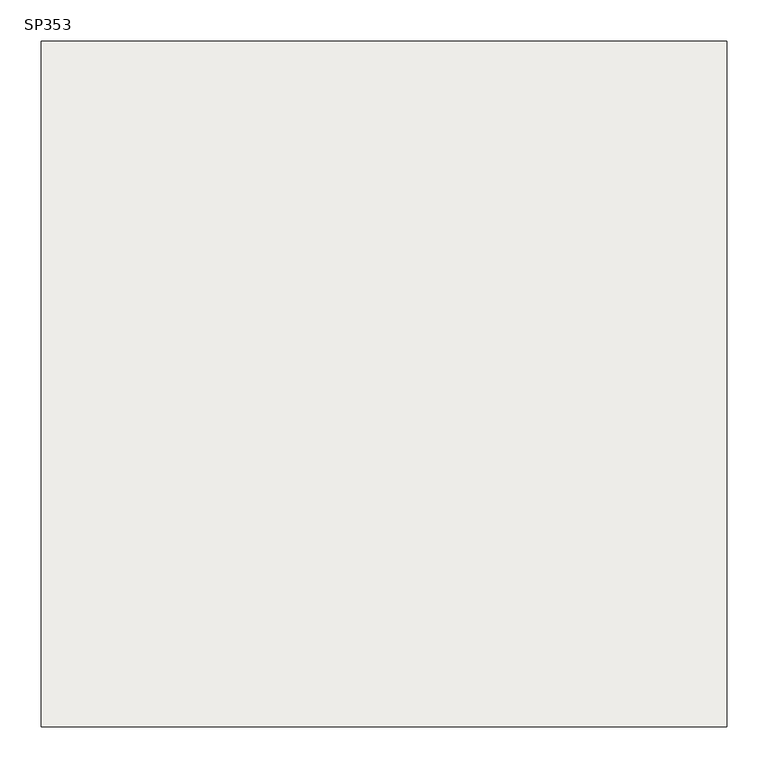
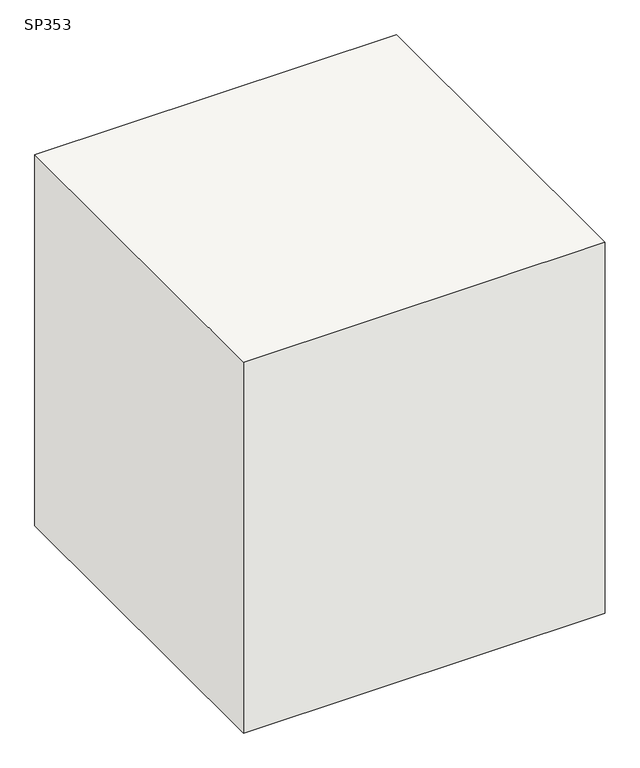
"""IFC4 building model written with IfcOpenShell, lengths in millimetres: slab geometry, 柱形_SP : SP353."""

from ifc_helpers import new_model, si_unit, frame, origin, place, context, project, spatial, polyline, outline, extrude, source, transform, mapped, element, save


def sp353_86609485(model_context):
    return source(origin(), model_context, "Body", "SweptSolid", [
        extrude(outline(polyline([(415.0, 415.0), (415.0, -415.0), (-415.0, -415.0), (-415.0, 415.0), (415.0, 415.0)])), frame((0.0, 0.0, -900.0), z_axis=(0.0, 0.0, 1.0), x_axis=(1.0, 0.0, 0.0)), (0.0, 0.0, 1.0), 900.0),
    ])


if __name__ == "__main__":
    model = new_model("IFC4")
    model_context = context("Model", 3, world=origin())
    ifc_project = project(units=[si_unit("LENGTHUNIT", "METRE", prefix="MILLI")], contexts=[model_context])
    site = spatial("IfcSite", under=ifc_project)
    building = spatial("IfcBuilding", under=site)
    placement = place(None, origin())
    sp353_shape = sp353_86609485(model_context)
    element("IfcSlab", 1, ObjectType="柱形_SP : SP353", at=placement, inside=building, context=model_context, shape_type="MappedRepresentation", body=[
        mapped(sp353_shape, transform((0.0, 0.0, 0.0), x_axis=(1.0, 0.0, 0.0), y_axis=(0.0, 1.0, 0.0), z_axis=(0.0, 0.0, 1.0))),
    ])
    save(model, "model.ifc")
